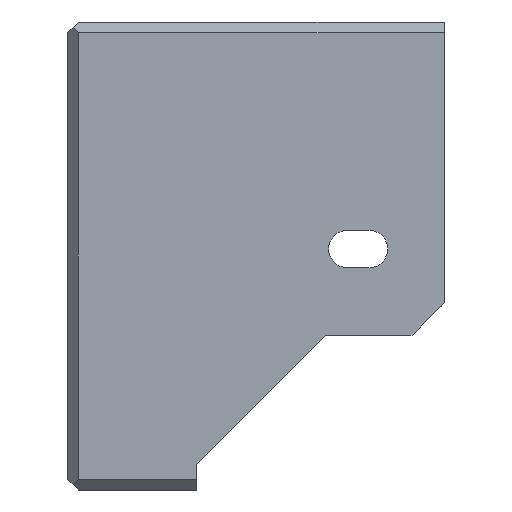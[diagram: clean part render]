
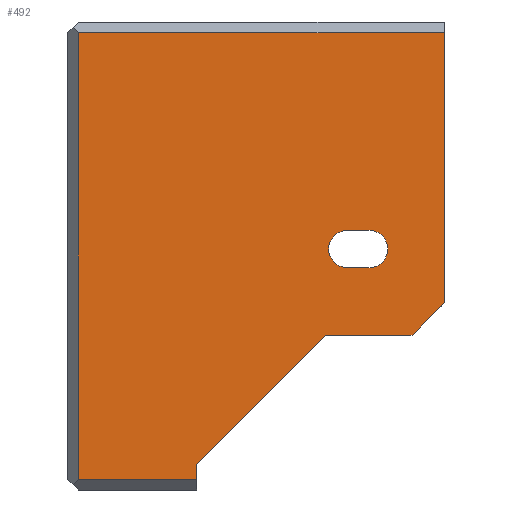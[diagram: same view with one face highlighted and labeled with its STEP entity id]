
A CAD part, front view. The second image highlights one B-rep face of the part: STEP entity #492.
In plain terms, the highlighted planar face has unit normal (0, -1, 0).
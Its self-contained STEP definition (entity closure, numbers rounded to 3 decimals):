
#159=CARTESIAN_POINT('Vertex',(-4.,-2.4,40.1)) ;
#162=CARTESIAN_POINT('Line Origine',(13.,-2.4,40.1)) ;
#166=CARTESIAN_POINT('Vertex',(30.,-2.4,40.1)) ;
#203=CARTESIAN_POINT('Vertex',(-4.,-2.4,-1.4)) ;
#206=CARTESIAN_POINT('Line Origine',(-4.,-2.4,19.35)) ;
#294=CARTESIAN_POINT('Line Origine',(30.,-2.4,27.55)) ;
#298=CARTESIAN_POINT('Vertex',(30.,-2.4,15.)) ;
#410=CARTESIAN_POINT('Axis2P3D Location',(0.,-2.4,41.1)) ;
#415=CARTESIAN_POINT('Line Origine',(1.5,-2.4,-1.4)) ;
#419=CARTESIAN_POINT('Vertex',(7.,-2.4,-1.4)) ;
#422=CARTESIAN_POINT('Line Origine',(7.,-2.4,-0.7)) ;
#426=CARTESIAN_POINT('Vertex',(7.,-2.4,0.)) ;
#429=CARTESIAN_POINT('Line Origine',(13.,-2.4,6.)) ;
#433=CARTESIAN_POINT('Vertex',(19.,-2.4,12.)) ;
#436=CARTESIAN_POINT('Line Origine',(23.,-2.4,12.)) ;
#440=CARTESIAN_POINT('Vertex',(27.,-2.4,12.)) ;
#443=CARTESIAN_POINT('Line Origine',(28.5,-2.4,13.5)) ;
#458=CARTESIAN_POINT('Axis2P3D Location',(23.,-2.4,20.)) ;
#462=CARTESIAN_POINT('Vertex',(23.,-2.4,18.25)) ;
#464=CARTESIAN_POINT('Vertex',(23.,-2.4,21.75)) ;
#467=CARTESIAN_POINT('Line Origine',(22.,-2.4,18.25)) ;
#471=CARTESIAN_POINT('Vertex',(21.,-2.4,18.25)) ;
#474=CARTESIAN_POINT('Axis2P3D Location',(21.,-2.4,20.)) ;
#478=CARTESIAN_POINT('Vertex',(21.,-2.4,21.75)) ;
#481=CARTESIAN_POINT('Line Origine',(22.,-2.4,21.75)) ;
#163=DIRECTION('Vector Direction',(1.,0.,0.)) ;
#207=DIRECTION('Vector Direction',(0.,0.,1.)) ;
#295=DIRECTION('Vector Direction',(0.,0.,-1.)) ;
#411=DIRECTION('Axis2P3D Direction',(0.,-1.,0.)) ;
#412=DIRECTION('Axis2P3D XDirection',(0.,0.,-1.)) ;
#416=DIRECTION('Vector Direction',(-1.,0.,0.)) ;
#423=DIRECTION('Vector Direction',(0.,0.,-1.)) ;
#430=DIRECTION('Vector Direction',(-0.707,0.,-0.707)) ;
#437=DIRECTION('Vector Direction',(-1.,0.,0.)) ;
#444=DIRECTION('Vector Direction',(-0.707,0.,-0.707)) ;
#459=DIRECTION('Axis2P3D Direction',(0.,-1.,0.)) ;
#468=DIRECTION('Vector Direction',(-1.,0.,0.)) ;
#475=DIRECTION('Axis2P3D Direction',(0.,-1.,0.)) ;
#482=DIRECTION('Vector Direction',(1.,0.,0.)) ;
#413=AXIS2_PLACEMENT_3D('Plane Axis2P3D',#410,#411,#412) ;
#460=AXIS2_PLACEMENT_3D('Circle Axis2P3D',#458,#459,$) ;
#476=AXIS2_PLACEMENT_3D('Circle Axis2P3D',#474,#475,$) ;
#449=ORIENTED_EDGE('',*,*,#300,.F.) ;
#450=ORIENTED_EDGE('',*,*,#168,.F.) ;
#451=ORIENTED_EDGE('',*,*,#210,.F.) ;
#452=ORIENTED_EDGE('',*,*,#421,.T.) ;
#453=ORIENTED_EDGE('',*,*,#428,.F.) ;
#454=ORIENTED_EDGE('',*,*,#435,.F.) ;
#455=ORIENTED_EDGE('',*,*,#442,.F.) ;
#456=ORIENTED_EDGE('',*,*,#447,.F.) ;
#487=ORIENTED_EDGE('',*,*,#466,.F.) ;
#488=ORIENTED_EDGE('',*,*,#473,.F.) ;
#489=ORIENTED_EDGE('',*,*,#480,.F.) ;
#490=ORIENTED_EDGE('',*,*,#485,.F.) ;
#491=FACE_BOUND('',#486,.T.) ;
#164=VECTOR('Line Direction',#163,1.) ;
#208=VECTOR('Line Direction',#207,1.) ;
#296=VECTOR('Line Direction',#295,1.) ;
#417=VECTOR('Line Direction',#416,1.) ;
#424=VECTOR('Line Direction',#423,1.) ;
#431=VECTOR('Line Direction',#430,1.) ;
#438=VECTOR('Line Direction',#437,1.) ;
#445=VECTOR('Line Direction',#444,1.) ;
#469=VECTOR('Line Direction',#468,1.) ;
#483=VECTOR('Line Direction',#482,1.) ;
#492=ADVANCED_FACE('PartBody',(#457,#491),#414,.T.) ;
#461=CIRCLE('generated circle',#460,1.75) ;
#477=CIRCLE('generated circle',#476,1.75) ;
#168=EDGE_CURVE('',#160,#167,#165,.T.) ;
#210=EDGE_CURVE('',#204,#160,#209,.T.) ;
#300=EDGE_CURVE('',#167,#299,#297,.T.) ;
#421=EDGE_CURVE('',#204,#420,#418,.F.) ;
#428=EDGE_CURVE('',#427,#420,#425,.T.) ;
#435=EDGE_CURVE('',#434,#427,#432,.T.) ;
#442=EDGE_CURVE('',#441,#434,#439,.T.) ;
#447=EDGE_CURVE('',#299,#441,#446,.T.) ;
#466=EDGE_CURVE('',#463,#465,#461,.T.) ;
#473=EDGE_CURVE('',#472,#463,#470,.F.) ;
#480=EDGE_CURVE('',#479,#472,#477,.T.) ;
#485=EDGE_CURVE('',#465,#479,#484,.F.) ;
#448=EDGE_LOOP('',(#449,#450,#451,#452,#453,#454,#455,#456)) ;
#486=EDGE_LOOP('',(#487,#488,#489,#490)) ;
#457=FACE_OUTER_BOUND('',#448,.T.) ;
#165=LINE('Line',#162,#164) ;
#209=LINE('Line',#206,#208) ;
#297=LINE('Line',#294,#296) ;
#418=LINE('Line',#415,#417) ;
#425=LINE('Line',#422,#424) ;
#432=LINE('Line',#429,#431) ;
#439=LINE('Line',#436,#438) ;
#446=LINE('Line',#443,#445) ;
#470=LINE('Line',#467,#469) ;
#484=LINE('Line',#481,#483) ;
#414=PLANE('Plane',#413) ;
#160=VERTEX_POINT('',#159) ;
#167=VERTEX_POINT('',#166) ;
#204=VERTEX_POINT('',#203) ;
#299=VERTEX_POINT('',#298) ;
#420=VERTEX_POINT('',#419) ;
#427=VERTEX_POINT('',#426) ;
#434=VERTEX_POINT('',#433) ;
#441=VERTEX_POINT('',#440) ;
#463=VERTEX_POINT('',#462) ;
#465=VERTEX_POINT('',#464) ;
#472=VERTEX_POINT('',#471) ;
#479=VERTEX_POINT('',#478) ;
